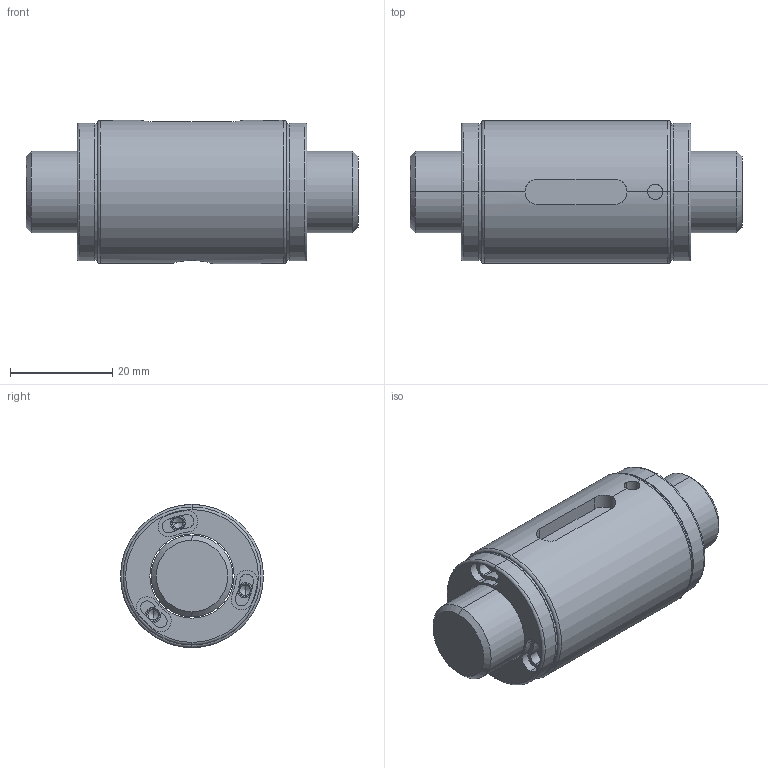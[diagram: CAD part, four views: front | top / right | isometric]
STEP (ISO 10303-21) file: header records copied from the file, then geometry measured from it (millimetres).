
FILE_DESCRIPTION (( 'STEP AP203' ), '1' );
FILE_NAME ('SCHR01616A1-C.STEP', '2020-06-17T08:45:15', ( '' ), ( '' ), 'SwSTEP 2.0', 'SolidWorks 2013', '' );
FILE_SCHEMA (( 'CONFIG_CONTROL_DESIGN' ));
Length unit declared in the file: millimetre
Products named in the file (1): SCHR01616A1-C
Bounding box: 65 x 28 x 28 mm (x, y, z)
Volume: 29701 mm3; surface area: 11471.5 mm2
Topology: 2 solids, 2 shells, 189 faces, 452 edges, 275 vertices
Faces by surface type: cylinder 105, plane 48, cone 28, torus 8
Entity records: 5754 total; most frequent: CARTESIAN_POINT 1127, DIRECTION 1089, ORIENTED_EDGE 880, AXIS2_PLACEMENT_3D 473, EDGE_CURVE 440, CIRCLE 283, VERTEX_POINT 275, EDGE_LOOP 213
